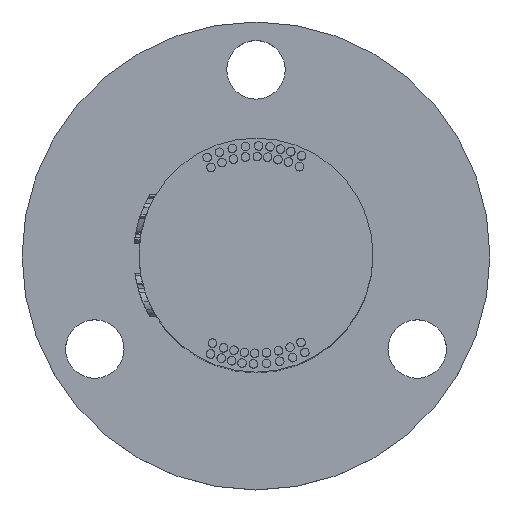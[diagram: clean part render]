
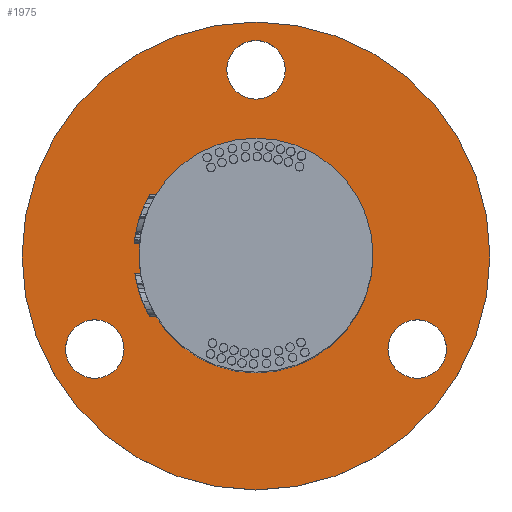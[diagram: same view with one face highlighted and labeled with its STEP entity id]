
A CAD part, top view. The second image highlights one B-rep face of the part: STEP entity #1975.
In plain terms, the highlighted planar face has unit normal (0, 0, 1).
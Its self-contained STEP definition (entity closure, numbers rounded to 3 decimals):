
#228=FACE_BOUND('',#3567,.T.);
#229=FACE_BOUND('',#3568,.T.);
#230=FACE_BOUND('',#3569,.T.);
#231=FACE_BOUND('',#3570,.T.);
#232=FACE_BOUND('',#3571,.T.);
#572=CIRCLE('',#12132,2.75);
#573=CIRCLE('',#12133,2.75);
#574=CIRCLE('',#12134,2.75);
#575=CIRCLE('',#12135,11.);
#576=CIRCLE('',#12136,22.);
#1975=ADVANCED_FACE('',(#228,#229,#230,#231,#232),#2401,.T.);
#2401=PLANE('',#12137);
#3567=EDGE_LOOP('',(#5799));
#3568=EDGE_LOOP('',(#5800));
#3569=EDGE_LOOP('',(#5801));
#3570=EDGE_LOOP('',(#5802));
#3571=EDGE_LOOP('',(#5803));
#5799=ORIENTED_EDGE('',*,*,#9802,.F.);
#5800=ORIENTED_EDGE('',*,*,#9803,.F.);
#5801=ORIENTED_EDGE('',*,*,#9804,.F.);
#5802=ORIENTED_EDGE('',*,*,#9805,.T.);
#5803=ORIENTED_EDGE('',*,*,#9806,.F.);
#8236=VERTEX_POINT('',#23061);
#8237=VERTEX_POINT('',#23063);
#8238=VERTEX_POINT('',#23065);
#8239=VERTEX_POINT('',#23067);
#8240=VERTEX_POINT('',#23069);
#9802=EDGE_CURVE('',#8236,#8236,#572,.T.);
#9803=EDGE_CURVE('',#8237,#8237,#573,.T.);
#9804=EDGE_CURVE('',#8238,#8238,#574,.T.);
#9805=EDGE_CURVE('',#8239,#8239,#575,.T.);
#9806=EDGE_CURVE('',#8240,#8240,#576,.T.);
#12132=AXIS2_PLACEMENT_3D('',#23060,#13549,#13550);
#12133=AXIS2_PLACEMENT_3D('',#23062,#13551,#13552);
#12134=AXIS2_PLACEMENT_3D('',#23064,#13553,#13554);
#12135=AXIS2_PLACEMENT_3D('',#23066,#13555,#13556);
#12136=AXIS2_PLACEMENT_3D('',#23068,#13557,#13558);
#12137=AXIS2_PLACEMENT_3D('',#23070,#13559,#13560);
#13549=DIRECTION('',(0.,0.,1.));
#13550=DIRECTION('',(1.,0.,0.));
#13551=DIRECTION('',(0.,0.,1.));
#13552=DIRECTION('',(1.,0.,0.));
#13553=DIRECTION('',(0.,0.,1.));
#13554=DIRECTION('',(1.,0.,0.));
#13555=DIRECTION('',(0.,0.,-1.));
#13556=DIRECTION('',(1.,0.,0.));
#13557=DIRECTION('',(0.,0.,-1.));
#13558=DIRECTION('',(1.,0.,0.));
#13559=DIRECTION('',(0.,0.,1.));
#13560=DIRECTION('',(1.,0.,0.));
#23060=CARTESIAN_POINT('',(0.,17.5,2.5));
#23061=CARTESIAN_POINT('',(2.75,17.5,2.5));
#23062=CARTESIAN_POINT('',(-15.155,-8.75,2.5));
#23063=CARTESIAN_POINT('',(-12.405,-8.75,2.5));
#23064=CARTESIAN_POINT('',(15.155,-8.75,2.5));
#23065=CARTESIAN_POINT('',(17.905,-8.75,2.5));
#23066=CARTESIAN_POINT('',(0.,0.,2.5));
#23067=CARTESIAN_POINT('',(11.,0.,2.5));
#23068=CARTESIAN_POINT('',(0.,0.,2.5));
#23069=CARTESIAN_POINT('',(22.,0.,2.5));
#23070=CARTESIAN_POINT('',(0.,0.,2.5));
